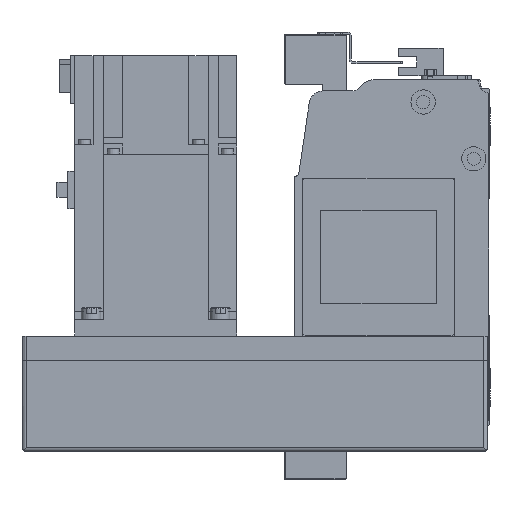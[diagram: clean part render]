
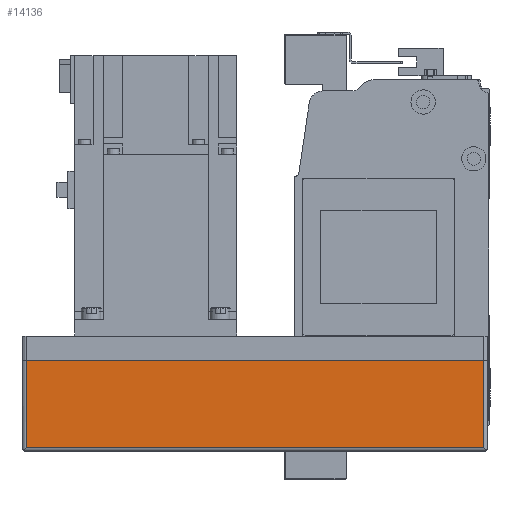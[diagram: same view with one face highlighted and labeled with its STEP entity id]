
A CAD part, left-side view. The second image highlights one B-rep face of the part: STEP entity #14136.
In plain terms, the highlighted planar face has unit normal (-1, 0, 0) as drawn and (0, -1, 0) by its records, which use the part's own axes.
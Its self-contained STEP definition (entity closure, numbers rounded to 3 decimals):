
#2431=ORIENTED_EDGE('',*,*,#5792,.F.);
#2432=ORIENTED_EDGE('',*,*,#5795,.T.);
#2433=ORIENTED_EDGE('',*,*,#5796,.T.);
#2434=ORIENTED_EDGE('',*,*,#5797,.F.);
#5792=EDGE_CURVE('',#7603,#7604,#9087,.T.);
#5795=EDGE_CURVE('',#7603,#7606,#9089,.T.);
#5796=EDGE_CURVE('',#7606,#7607,#9090,.T.);
#5797=EDGE_CURVE('',#7604,#7607,#9091,.T.);
#7603=VERTEX_POINT('',#22183);
#7604=VERTEX_POINT('',#22185);
#7606=VERTEX_POINT('',#22191);
#7607=VERTEX_POINT('',#22193);
#9087=LINE('',#22184,#10400);
#9089=LINE('',#22190,#10402);
#9090=LINE('',#22192,#10403);
#9091=LINE('',#22194,#10404);
#10400=VECTOR('',#17698,1000.);
#10402=VECTOR('',#17704,1000.);
#10403=VECTOR('',#17705,1000.);
#10404=VECTOR('',#17706,1000.);
#11524=EDGE_LOOP('',(#2431,#2432,#2433,#2434));
#12611=FACE_BOUND('',#11524,.T.);
#13548=PLANE('',#15174);
#14136=ADVANCED_FACE('',(#12611),#13548,.T.);
#15174=AXIS2_PLACEMENT_3D('',#22189,#17702,#17703);
#17698=DIRECTION('',(0.,0.,1.));
#17702=DIRECTION('',(0.,-1.,0.));
#17703=DIRECTION('',(0.,0.,-1.));
#17704=DIRECTION('',(1.,0.,0.));
#17705=DIRECTION('',(0.,0.,1.));
#17706=DIRECTION('',(1.,0.,0.));
#22183=CARTESIAN_POINT('',(-228.,-54.,-55.));
#22184=CARTESIAN_POINT('',(-228.,-54.,-57.));
#22185=CARTESIAN_POINT('',(-228.,-54.,-12.));
#22189=CARTESIAN_POINT('',(-228.,-54.,-57.));
#22190=CARTESIAN_POINT('',(-230.,-54.,-55.));
#22191=CARTESIAN_POINT('',(-2.,-54.,-55.));
#22192=CARTESIAN_POINT('',(-2.,-54.,-57.));
#22193=CARTESIAN_POINT('',(-2.,-54.,-12.));
#22194=CARTESIAN_POINT('',(-228.,-54.,-12.));
